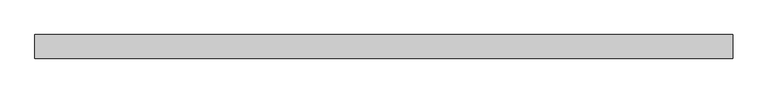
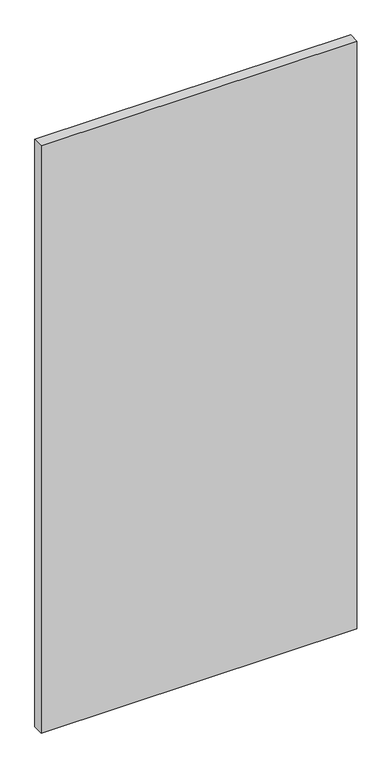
"""IFC4 building model written with IfcOpenShell, lengths in millimetres: plate geometry, Vitré."""

from ifc_helpers import new_model, si_unit, origin, origin_with_axes, place, context, project, spatial, polyline, outline, extrude, source, transform, mapped, element, save


def plate_f503a7b0(model_context):
    return source(origin(), model_context, "Body", "SweptSolid", [
        extrude(outline(polyline([(-582.5625002, -20.0), (-582.5625002, 20.0), (582.5625002, 20.0), (582.5625002, -20.0), (-582.5625002, -20.0)])), origin_with_axes(), (0.0, 0.0, 1.0), 2292.625),
    ])


if __name__ == "__main__":
    model = new_model("IFC4")
    model_context = context("Model", 3, world=origin())
    ifc_project = project(units=[si_unit("LENGTHUNIT", "METRE", prefix="MILLI")], contexts=[model_context])
    site = spatial("IfcSite", under=ifc_project)
    building = spatial("IfcBuilding", under=site)
    placement = place(None, origin())
    plate_shape = plate_f503a7b0(model_context)
    element("IfcPlate", 1, ObjectType="Vitré", at=placement, inside=building, context=model_context, shape_type="MappedRepresentation", body=[
        mapped(plate_shape, transform((0.0, 0.0, 0.0), x_axis=(1.0, 0.0, 0.0), y_axis=(0.0, 1.0, 0.0), z_axis=(0.0, 0.0, 1.0))),
    ])
    save(model, "model.ifc")
